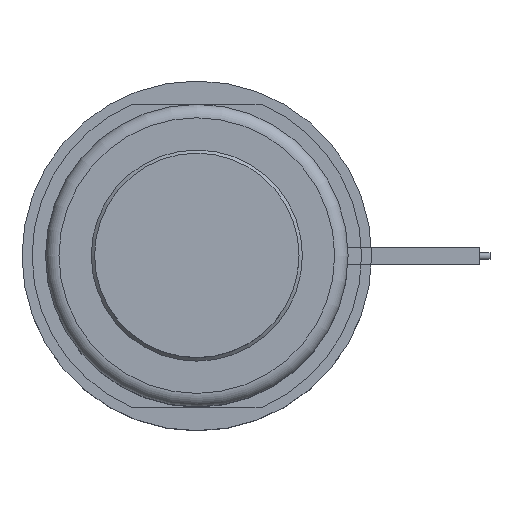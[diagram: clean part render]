
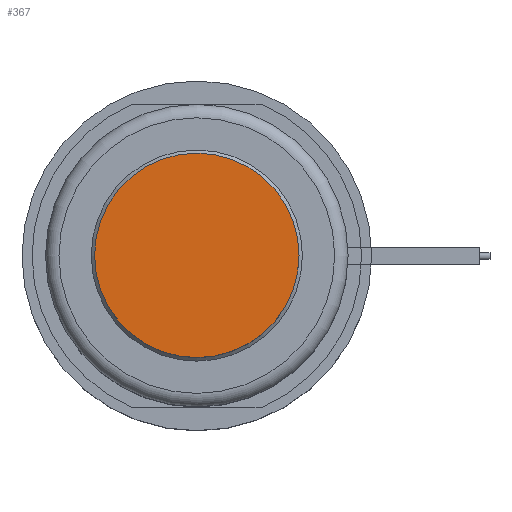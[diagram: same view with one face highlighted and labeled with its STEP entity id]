
A CAD part, top view. The second image highlights one B-rep face of the part: STEP entity #367.
In plain terms, the highlighted planar face has unit normal (0, 0, 1).
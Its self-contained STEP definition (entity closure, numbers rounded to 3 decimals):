
#255=PLANE('',#1310);
#298=FACE_OUTER_BOUND('',#569,.T.);
#367=ADVANCED_FACE('',(#298),#255,.F.);
#569=EDGE_LOOP('',(#725));
#725=ORIENTED_EDGE('',*,*,#1091,.F.);
#978=VERTEX_POINT('',#1886);
#1091=EDGE_CURVE('',#978,#978,#1217,.T.);
#1217=CIRCLE('',#1309,15.2);
#1309=AXIS2_PLACEMENT_3D('',#1885,#1515,#1516);
#1310=AXIS2_PLACEMENT_3D('',#1887,#1517,#1518);
#1515=DIRECTION('',(0.,0.,-1.));
#1516=DIRECTION('',(-1.,0.,0.));
#1517=DIRECTION('',(0.,0.,-1.));
#1518=DIRECTION('',(-1.,0.,0.));
#1885=CARTESIAN_POINT('',(0.,0.,18.));
#1886=CARTESIAN_POINT('',(-15.2,0.,18.));
#1887=CARTESIAN_POINT('',(0.,0.,18.));
